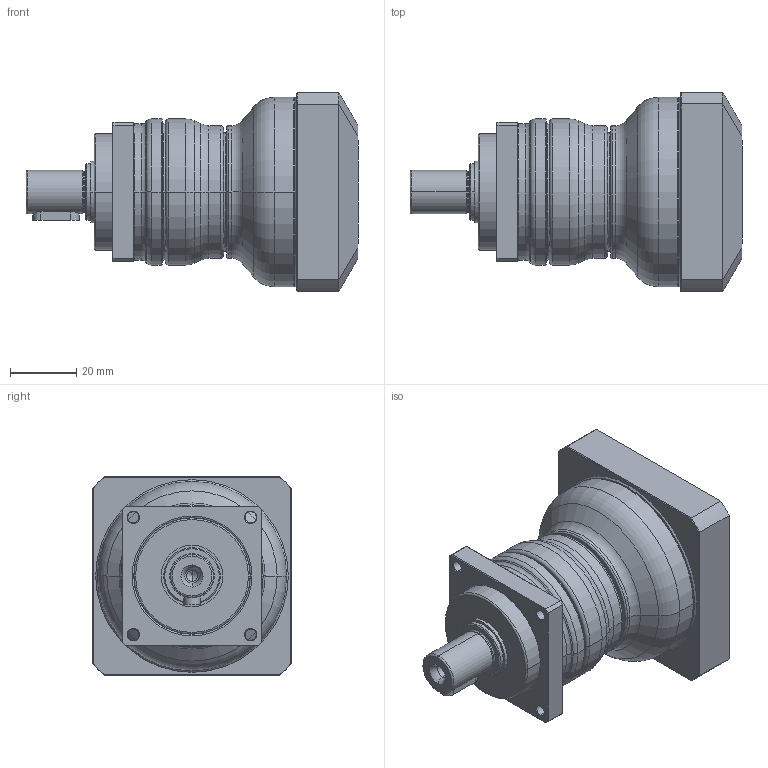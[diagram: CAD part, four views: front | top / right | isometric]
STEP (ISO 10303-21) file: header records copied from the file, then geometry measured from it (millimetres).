
FILE_DESCRIPTION((''),'2;1');
FILE_NAME('PA2-042_1ST_11-P0411200101_ASM','2016-05-04T',('d01943'),(''),'PRO/ENGINEER BY PARAMETRIC TECHNOLOGY CORPORATION, 2008410','PRO/ENGINEER BY PARAMETRIC TECHNOLOGY CORPORATION, 2008410','');
FILE_SCHEMA(('CONFIG_CONTROL_DESIGN'));
Length unit declared in the file: millimetre
Products named in the file (9): P1327100001; P0250100001; P1324100101; P0350100601; P0941101001; P0503200005; P0411200101; P1702300001; PA2-042_1ST_11-P0411200101_ASM
Assembly tree (8 placements, depth 2):
  PA2-042_1ST_11-P0411200101_ASM
    P1327100001
    P0250100001
    P1324100101
    P0350100601
    P0941101001
    P0503200005
    P0411200101
    P1702300001
Bounding box: 100 x 60 x 60 mm (x, y, z)
Volume: 116729.4 mm3; surface area: 48617.7 mm2
Topology: 8 solids, 8 shells, 469 faces, 1027 edges, 592 vertices
Faces by surface type: cone 148, cylinder 131, torus 88, plane 86, bspline 16
Entity records: 17515 total; most frequent: CARTESIAN_POINT 6958, DIRECTION 2388, ORIENTED_EDGE 2014, AXIS2_PLACEMENT_3D 1018, EDGE_CURVE 1007, VERTEX_POINT 592, CIRCLE 548, EDGE_LOOP 531
